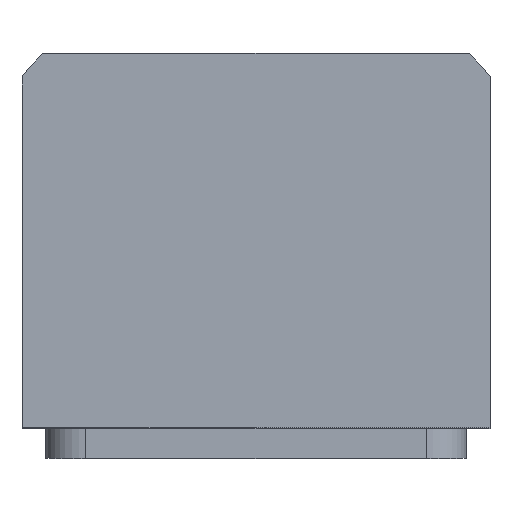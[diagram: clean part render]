
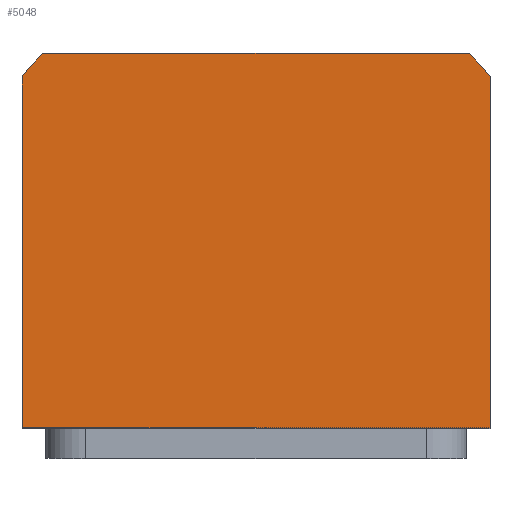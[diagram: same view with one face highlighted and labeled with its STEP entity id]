
A CAD part, top view. The second image highlights one B-rep face of the part: STEP entity #5048.
In plain terms, the highlighted planar face has unit normal (0, 0, 1).
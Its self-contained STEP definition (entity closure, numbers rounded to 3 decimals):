
#2328=LINE('',#15424,#3132);
#2361=LINE('',#16076,#3165);
#2381=LINE('',#16131,#3185);
#2385=LINE('',#16144,#3189);
#3132=VECTOR('',#11059,1.);
#3165=VECTOR('',#11196,1.);
#3185=VECTOR('',#11244,1.);
#3189=VECTOR('',#11258,1.);
#4027=PLANE('',#10657);
#4373=FACE_OUTER_BOUND('',#5785,.T.);
#5048=ADVANCED_FACE('',(#4373),#4027,.T.);
#5486=CIRCLE('',#10636,44.5);
#5488=CIRCLE('',#10639,44.5);
#5785=EDGE_LOOP('',(#6529,#6530,#6531,#6532,#6533,#6534));
#6529=ORIENTED_EDGE('',*,*,#9507,.T.);
#6530=ORIENTED_EDGE('',*,*,#9535,.T.);
#6531=ORIENTED_EDGE('',*,*,#9514,.T.);
#6532=ORIENTED_EDGE('',*,*,#9542,.T.);
#6533=ORIENTED_EDGE('',*,*,#9517,.T.);
#6534=ORIENTED_EDGE('',*,*,#9402,.T.);
#8586=VERTEX_POINT('',#15423);
#8587=VERTEX_POINT('',#15425);
#8682=VERTEX_POINT('',#16075);
#8685=VERTEX_POINT('',#16085);
#8688=VERTEX_POINT('',#16090);
#8689=VERTEX_POINT('',#16094);
#9402=EDGE_CURVE('',#8587,#8586,#2328,.T.);
#9507=EDGE_CURVE('',#8586,#8682,#2361,.T.);
#9514=EDGE_CURVE('',#8685,#8688,#5486,.T.);
#9517=EDGE_CURVE('',#8689,#8587,#5488,.T.);
#9535=EDGE_CURVE('',#8682,#8685,#2381,.T.);
#9542=EDGE_CURVE('',#8688,#8689,#2385,.T.);
#10636=AXIS2_PLACEMENT_3D('',#16091,#11210,#11211);
#10639=AXIS2_PLACEMENT_3D('',#16097,#11217,#11218);
#10657=AXIS2_PLACEMENT_3D('',#16168,#11281,#11282);
#11059=DIRECTION('',(0.,-1.,0.));
#11196=DIRECTION('',(1.,0.,0.));
#11210=DIRECTION('',(0.,0.,1.));
#11211=DIRECTION('',(1.,0.,0.));
#11217=DIRECTION('',(0.,0.,1.));
#11218=DIRECTION('',(1.,0.,0.));
#11244=DIRECTION('',(0.,1.,0.));
#11258=DIRECTION('',(-1.,0.,0.));
#11281=DIRECTION('',(0.,0.,1.));
#11282=DIRECTION('',(-1.,0.,0.));
#15423=CARTESIAN_POINT('',(-35.,-25.,39.5));
#15424=CARTESIAN_POINT('',(-35.,-25.,39.5));
#15425=CARTESIAN_POINT('',(-35.,27.482,39.5));
#16075=CARTESIAN_POINT('',(35.,-25.,39.5));
#16076=CARTESIAN_POINT('',(35.,-25.,39.5));
#16085=CARTESIAN_POINT('',(35.,27.482,39.5));
#16090=CARTESIAN_POINT('',(31.926,31.,39.5));
#16091=CARTESIAN_POINT('',(0.,0.,39.5));
#16094=CARTESIAN_POINT('',(-31.926,31.,39.5));
#16097=CARTESIAN_POINT('',(0.,0.,39.5));
#16131=CARTESIAN_POINT('',(35.,27.482,39.5));
#16144=CARTESIAN_POINT('',(-31.926,31.,39.5));
#16168=CARTESIAN_POINT('',(0.,0.,39.5));
